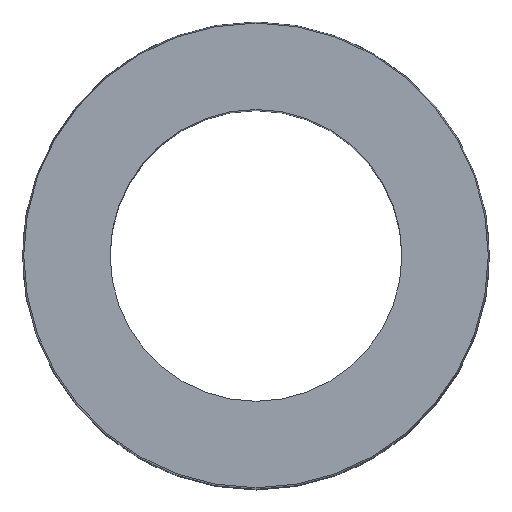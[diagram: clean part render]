
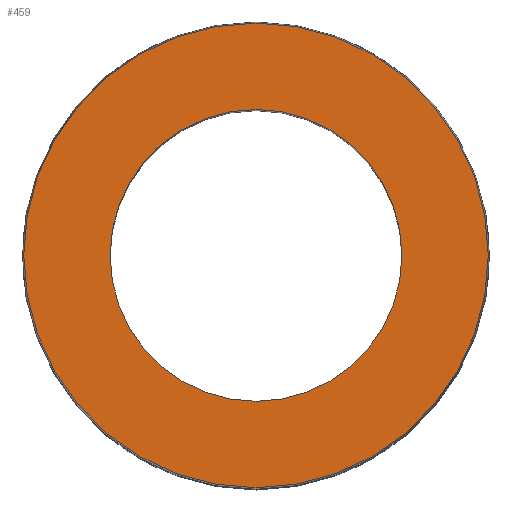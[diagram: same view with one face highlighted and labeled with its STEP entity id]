
A CAD part, top view. The second image highlights one B-rep face of the part: STEP entity #459.
In plain terms, the highlighted planar face has unit normal (0, 0, 1).
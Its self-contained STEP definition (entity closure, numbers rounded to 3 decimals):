
#49=CARTESIAN_POINT('',(-15.299,1.811,58.));
#50=VERTEX_POINT('',#49);
#59=CARTESIAN_POINT('',(9.701,1.811,58.));
#60=VERTEX_POINT('',#59);
#61=CARTESIAN_POINT('',(-2.799,1.811,58.));
#62=DIRECTION('',(0.0,0.0,-1.0));
#63=DIRECTION('',(-1.0,0.0,0.0));
#64=AXIS2_PLACEMENT_3D('',#61,#62,#63);
#65=CIRCLE('',#64,12.5);
#66=EDGE_CURVE('',#60,#50,#65,.T.);
#235=CARTESIAN_POINT('',(-22.699,1.811,58.));
#236=VERTEX_POINT('',#235);
#243=CARTESIAN_POINT('',(17.101,1.811,58.));
#244=VERTEX_POINT('',#243);
#245=CARTESIAN_POINT('',(-2.799,1.811,58.));
#246=DIRECTION('',(0.0,0.0,-1.0));
#247=DIRECTION('',(-1.0,0.0,0.0));
#248=AXIS2_PLACEMENT_3D('',#245,#246,#247);
#249=CIRCLE('',#248,19.9);
#250=EDGE_CURVE('',#236,#244,#249,.T.);
#412=CARTESIAN_POINT('',(-2.799,1.811,58.));
#413=DIRECTION('',(0.0,0.0,-1.0));
#414=DIRECTION('',(-1.0,0.0,0.0));
#415=AXIS2_PLACEMENT_3D('',#412,#413,#414);
#416=CIRCLE('',#415,19.9);
#417=EDGE_CURVE('',#244,#236,#416,.T.);
#440=CARTESIAN_POINT('',(-2.799,1.811,58.));
#441=DIRECTION('',(0.0,0.0,-1.0));
#442=DIRECTION('',(-1.0,0.0,0.0));
#443=AXIS2_PLACEMENT_3D('',#440,#441,#442);
#444=PLANE('',#443);
#445=ORIENTED_EDGE('',*,*,#417,.F.);
#446=ORIENTED_EDGE('',*,*,#250,.F.);
#447=EDGE_LOOP('',(#445,#446));
#448=FACE_OUTER_BOUND('',#447,.T.);
#449=ORIENTED_EDGE('',*,*,#66,.T.);
#450=CARTESIAN_POINT('',(-2.799,1.811,58.));
#451=DIRECTION('',(0.0,0.0,-1.0));
#452=DIRECTION('',(-1.0,0.0,0.0));
#453=AXIS2_PLACEMENT_3D('',#450,#451,#452);
#454=CIRCLE('',#453,12.5);
#455=EDGE_CURVE('',#50,#60,#454,.T.);
#456=ORIENTED_EDGE('',*,*,#455,.T.);
#457=EDGE_LOOP('',(#449,#456));
#458=FACE_BOUND('',#457,.T.);
#459=ADVANCED_FACE('',(#448,#458),#444,.F.);
